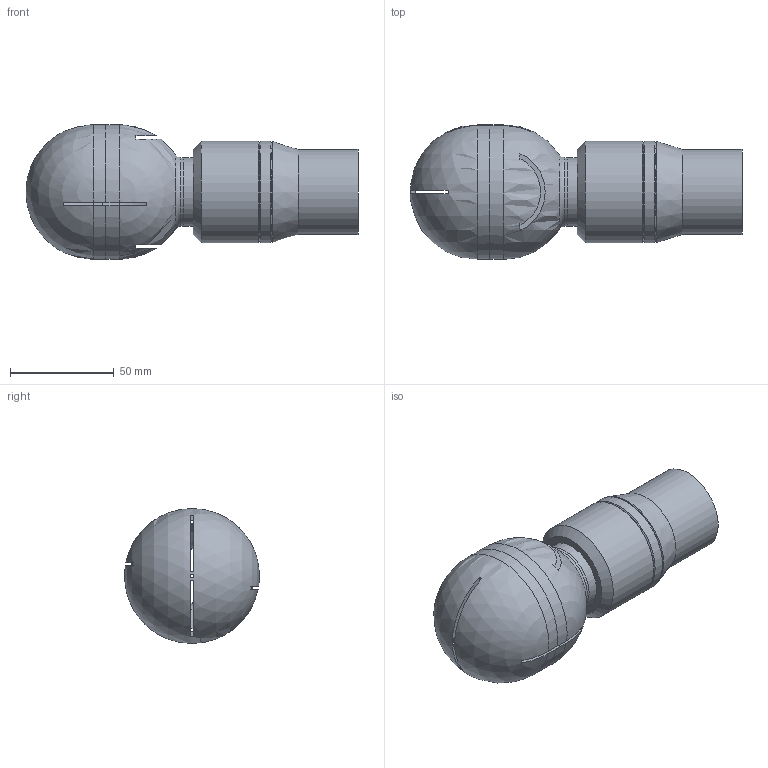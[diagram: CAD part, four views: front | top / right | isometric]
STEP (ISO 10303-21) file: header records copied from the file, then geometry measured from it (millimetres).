
FILE_DESCRIPTION((''),'2;1');
FILE_NAME('K:\2013 konstrukce\5xxxx\5323-065-Rotační mycí hlavice dvouložisková\5323C-065-Rotační mycí hlavice dvouložisková -přivařovací 41x1,5-360\5323C-065-Rotační mycí hlavice dvouložisková -přivařovací 41x1,5-360.stp','2019-05-13T07:30:17',('konstrukce'),(''),'Autodesk Inventor 2010','Autodesk Inventor 2010','');
FILE_SCHEMA(('AUTOMOTIVE_DESIGN { 1 0 10303 214 1 1 1 1 }'));
Length unit declared in the file: millimetre
Products named in the file (9): 5323C-065-Rotační mycí hlavice dvouložisková -přivařovací 41x1,5-360; 5323-065-10 SPRCHA OBROBENEC – Varianta 4; 5323P-065-02-HORNÍ POLOKOULE; 5323P-065-01-SPODNÍ POLOKOULE; 5323P-065-03-TĚLESO LOŽISEK; 5323P-065-04-SPODNÍ KRYT LOŽISKA; 5323P-065-05- HORNÍ KRYT LOŽISKA; 5323P-065-13-Kulíčka 1; 5323P-065-06-41,5-OBJÍMKA PRO ZÁVLAČKU-41,5
Assembly tree (43 placements, depth 3):
  5323C-065-Rotační mycí hlavice dvouložisková -přivařovací 41x1,5-360
    5323-065-10 SPRCHA OBROBENEC – Varianta 4
      5323P-065-02-HORNÍ POLOKOULE
      5323P-065-01-SPODNÍ POLOKOULE
    5323P-065-03-TĚLESO LOŽISEK
    5323P-065-04-SPODNÍ KRYT LOŽISKA
    5323P-065-05- HORNÍ KRYT LOŽISKA
    5323P-065-13-Kulíčka 1  x36
    5323P-065-06-41,5-OBJÍMKA PRO ZÁVLAČKU-41,5
Bounding box: 160 x 65 x 65 mm (x, y, z)
Volume: 86775.6 mm3; surface area: 71979.8 mm2
Topology: 42 solids, 42 shells, 185 faces, 411 edges, 277 vertices
Faces by surface type: plane 87, sphere 38, cylinder 34, bspline 10, cone 9, torus 7
Full cylindrical faces by diameter (mm): 1.6 x1, 26 x1, 26.5 x1, 29 x1, 31 x4, 32 x1, 33 x2, 34 x1, 38 x1, 41 x1, 42 x1, 44 x1, 45.1 x2, 47 x2, 49 x2
Entity records: 3892 total; most frequent: CARTESIAN_POINT 861, DIRECTION 674, ORIENTED_EDGE 432, AXIS2_PLACEMENT_3D 305, EDGE_CURVE 216, EDGE_LOOP 186, VERTEX_POINT 166, CIRCLE 148
